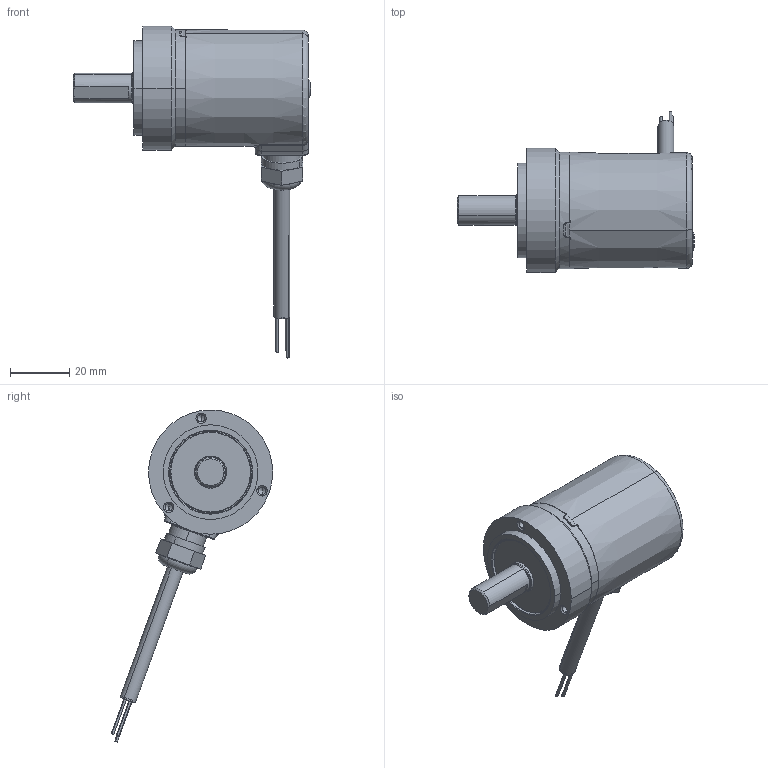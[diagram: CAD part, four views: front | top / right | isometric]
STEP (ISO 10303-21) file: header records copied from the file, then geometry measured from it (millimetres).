
FILE_DESCRIPTION (( 'STEP AP214' ), '1' );
FILE_NAME ('8.M366XR.15X2.XXXX.STEP', '2015-06-30T11:15:16', ( 'LauferA' ), ( 'Microsoft' ), 'SwSTEP 2.0', 'SolidWorks 2013', '' );
FILE_SCHEMA (( 'AUTOMOTIVE_DESIGN' ));
Length unit declared in the file: millimetre
Products named in the file (1): 8.M366XR.15X2.XXXX
Bounding box: 80.15 x 54.59 x 112.23 mm (x, y, z)
Volume: 35647.6 mm3; surface area: 29389 mm2
Topology: 13 solids, 13 shells, 507 faces, 1145 edges, 688 vertices
Faces by surface type: cylinder 185, plane 102, cone 97, torus 95, bspline 26, sphere 2
Entity records: 21040 total; most frequent: CARTESIAN_POINT 3828, DIRECTION 2640, ORIENTED_EDGE 2254, AXIS2_PLACEMENT_3D 1145, EDGE_CURVE 1127, VERTEX_POINT 688, CIRCLE 663, EDGE_LOOP 561
